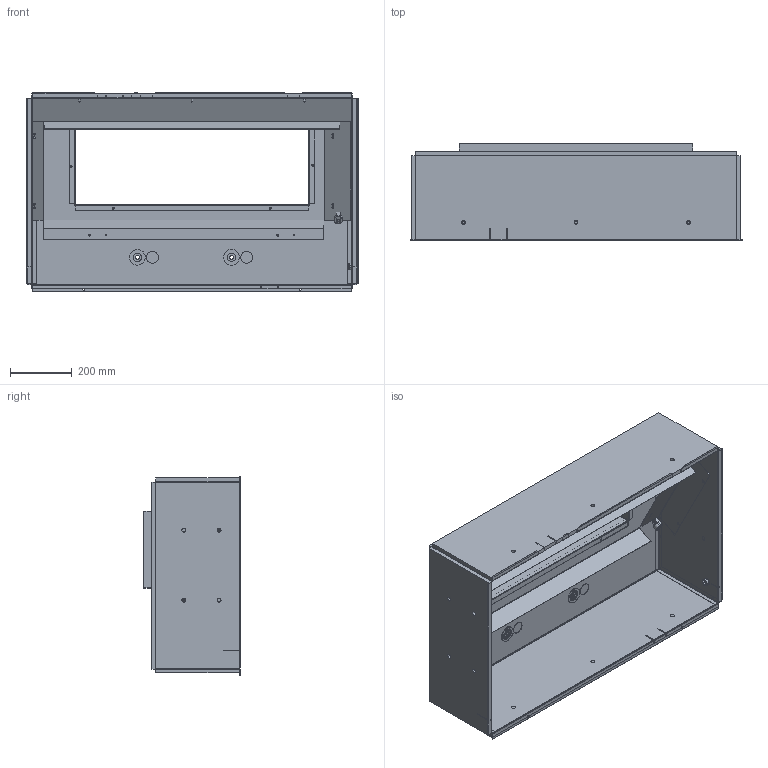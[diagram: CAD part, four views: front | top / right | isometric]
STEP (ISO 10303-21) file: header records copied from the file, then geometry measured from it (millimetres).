
FILE_DESCRIPTION (( 'STEP AP214' ), '1' );
FILE_NAME ('IHWC DUCTED PLENUM BOX FOR HOT WATER COIL.STEP', '2016-07-14T15:20:18', ( 'BMC' ), ( 'Bard Manufacturing Co., Inc.' ), 'SwSTEP 2.0', 'SolidWorks 2016', '' );
FILE_SCHEMA (( 'AUTOMOTIVE_DESIGN' ));
Length unit declared in the file: inch
Products named in the file (15): 1012-086; 5451-015; IHWC DUCTED PLENUM BOX FOR HOT WATER COIL; 112-453; 106-303; 110-208; 5021-1739; 5021-1738; 114-215; 136-665; 5021-1737; 104-1271; 104-1272; 8408-038_no wires; 8611-016
Assembly tree (20 placements, depth 2):
  IHWC DUCTED PLENUM BOX FOR HOT WATER COIL
    112-453
    106-303
    110-208  x2
    5021-1739
    5021-1738  x2
    114-215
    136-665
    5021-1737  x2
    104-1271
    104-1272
    5451-015  x2
    1012-086  x3
    8408-038_no wires
    8611-016
Bounding box: 1074.85 x 311.94 x 645.46 mm (x, y, z)
Surface area: 6773440.4 mm2 (no closed solid volume)
Topology: 0 solids, 20 shells, 728 faces, 1875 edges, 1209 vertices
Faces by surface type: plane 410, cylinder 288, bspline 20, cone 10
Entity records: 19913 total; most frequent: CARTESIAN_POINT 4699, DIRECTION 3061, ORIENTED_EDGE 3002, EDGE_CURVE 1501, AXIS2_PLACEMENT_3D 1067, VERTEX_POINT 965, LINE 927, VECTOR 927
